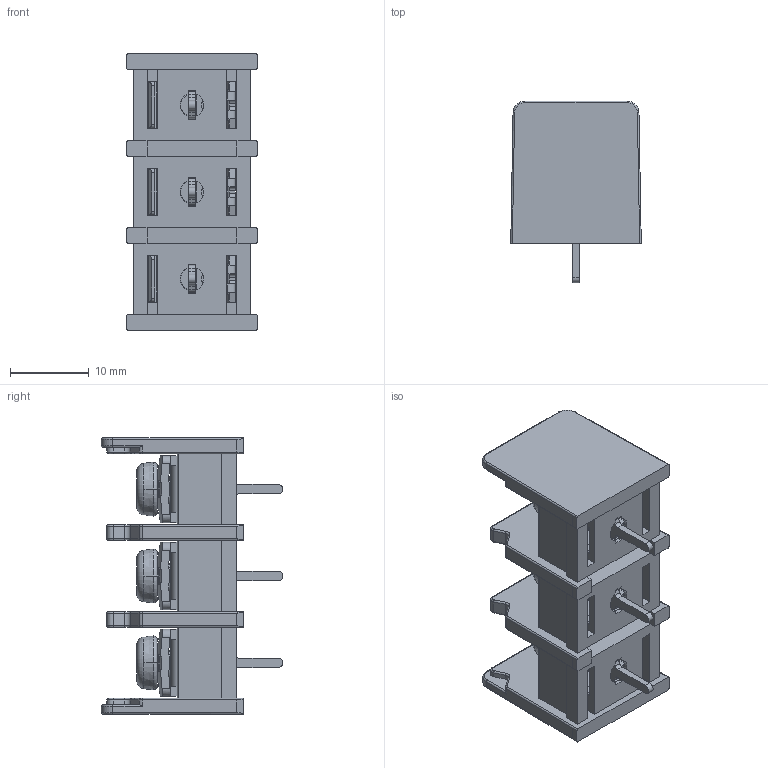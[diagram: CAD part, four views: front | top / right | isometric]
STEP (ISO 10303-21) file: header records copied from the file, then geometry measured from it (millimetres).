
FILE_DESCRIPTION((''),'2;1');
FILE_NAME('3PIN','2021-05-27T',('hanke'),(''),'CREO PARAMETRIC BY PTC INC, 2016260','CREO PARAMETRIC BY PTC INC, 2016260','');
FILE_SCHEMA(('CONFIG_CONTROL_DESIGN'));
Products named in the file (1): 3PIN
Bounding box: 16.5 x 23 x 35 mm (x, y, z)
Volume: 4263.3 mm3; surface area: 6839.3 mm2
Topology: 4 solids, 4 shells, 1325 faces, 3794 edges, 2445 vertices
Faces by surface type: plane 560, cylinder 349, bspline 216, torus 134, cone 66
Entity records: 57439 total; most frequent: CARTESIAN_POINT 24670, ORIENTED_EDGE 7576, DIRECTION 5905, EDGE_CURVE 3788, VERTEX_POINT 2445, AXIS2_PLACEMENT_3D 1986, VECTOR 1933, LINE 1933
